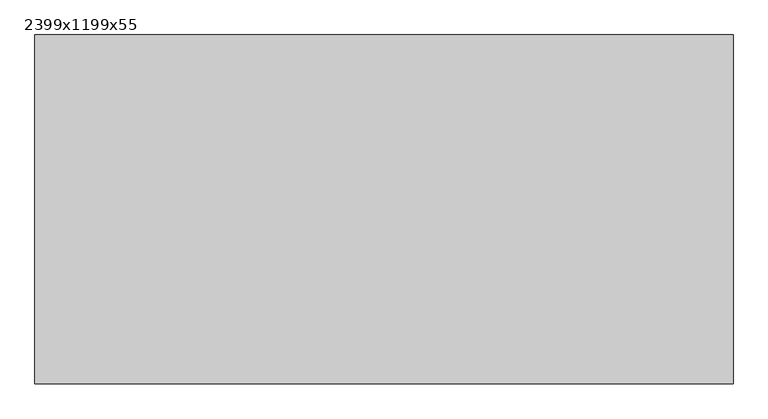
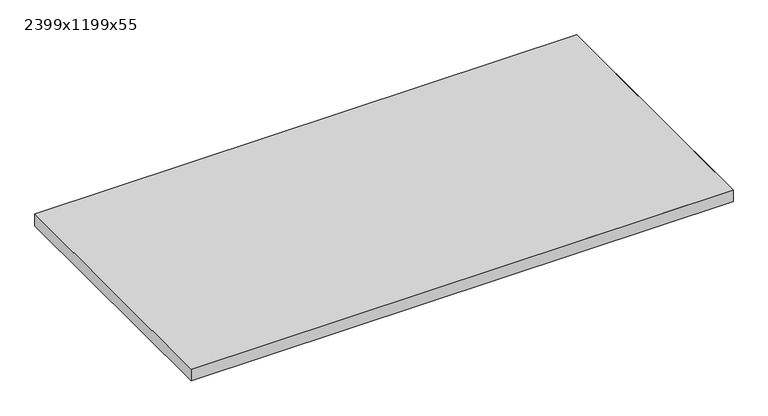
"""IFC4 building model written with IfcOpenShell, lengths in millimetres: proxy geometry, Texaa Panneaux Stereo fixés contre support par système magnétique séparés ou groupés au plafond : 2399x1199x55."""

from ifc_helpers import new_model, si_unit, frame, origin, place, context, project, spatial, polyline, outline, extrude, faceted_brep, source, transform, mapped, element, save


def proxy_2399x1199x55_500a141f(model_context):
    return source(origin(), model_context, "Body", "SolidModel", [
        extrude(outline(polyline([(-1198.5, -598.5), (-1198.5, 598.5), (1198.5, 598.5), (1198.5, -598.5), (-1198.5, -598.5)])), frame((0.0, 0.0, 11.0), z_axis=(0.0, 0.0, 1.0), x_axis=(1.0, 0.0, 0.0)), (0.0, 0.0, 1.0), 53.0),
        faceted_brep([(1199.5, 599.5, 65.0), (-1199.5, 599.5, 65.0), (-1199.5, -599.5, 65.0), (1199.5, -599.5, 65.0), (-1199.5, -599.5, 10.0), (-1199.5, 599.5, 10.0), (1199.5, 599.5, 10.0), (1199.5, -599.5, 10.0), (-1149.5, 549.5, 10.0), (-1149.5, -549.5, 10.0), (1149.5, -549.5, 10.0), (1149.5, 549.5, 10.0), (1149.5, 549.5, 11.0), (-1149.5, 549.5, 11.0), (1149.5, -549.5, 11.0), (-1149.5, -549.5, 11.0), (1198.5, -598.5, 64.0), (-1198.5, -598.5, 64.0), (-1198.5, 598.5, 64.0), (1198.5, 598.5, 64.0), (-1198.5, -598.5, 11.0), (1198.5, -598.5, 11.0), (1198.5, 598.5, 11.0), (-1198.5, 598.5, 11.0)], [[[0, 1, 2, 3]], [[4, 5, 6, 7], [8, 9, 10, 11]], [[4, 2, 1, 5]], [[5, 1, 0, 6]], [[3, 7, 6, 0]], [[2, 4, 7, 3]], [[8, 11, 12, 13]], [[11, 10, 14, 12]], [[10, 9, 15, 14]], [[13, 15, 9, 8]], [[16, 17, 18, 19]], [[20, 21, 22, 23], [12, 14, 15, 13]], [[23, 18, 17, 20]], [[22, 19, 18, 23]], [[19, 22, 21, 16]], [[20, 17, 16, 21]]]),
    ])


if __name__ == "__main__":
    model = new_model("IFC4")
    model_context = context("Model", 3, world=origin())
    ifc_project = project(units=[si_unit("LENGTHUNIT", "METRE", prefix="MILLI")], contexts=[model_context])
    site = spatial("IfcSite", under=ifc_project)
    building = spatial("IfcBuilding", under=site)
    placement = place(None, origin())
    proxy_2399x1199x55_shape = proxy_2399x1199x55_500a141f(model_context)
    element("IfcBuildingElementProxy", 1, Name="Texaa Panneaux Stereo fixés contre support par système magnétique séparés ou groupés au plafond : 2399x1199x55", ObjectType="Texaa Panneaux Stereo fixés contre support par système magnétique séparés ou groupés au plafond : 2399x1199x55", at=placement, inside=building, context=model_context, shape_type="MappedRepresentation", body=[
        mapped(proxy_2399x1199x55_shape, transform((0.0, 0.0, 0.0), x_axis=(1.0, 0.0, 0.0), y_axis=(0.0, 1.0, 0.0), z_axis=(0.0, 0.0, 1.0))),
    ])
    save(model, "model.ifc")
